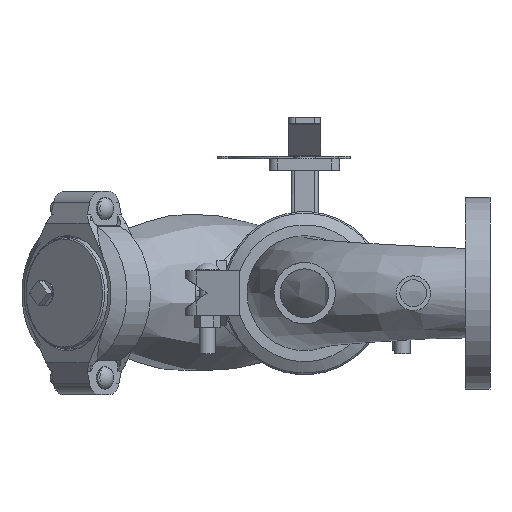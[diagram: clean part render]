
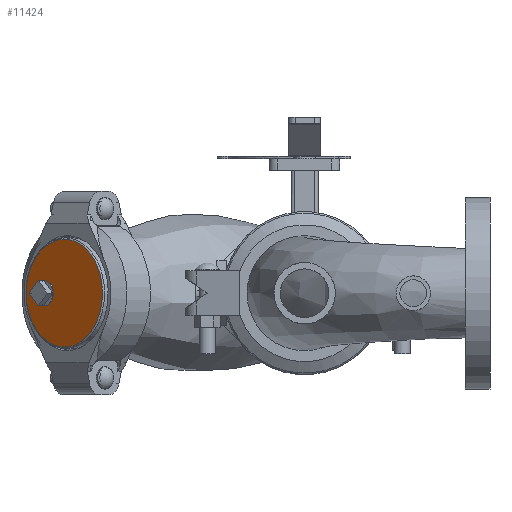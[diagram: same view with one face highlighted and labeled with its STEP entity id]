
A CAD part, front view. The second image highlights one B-rep face of the part: STEP entity #11424.
In plain terms, the highlighted planar face has unit normal (-0.707, -0.707, 0) as drawn and (1, 0, 0) by its records, which use the part's own axes.
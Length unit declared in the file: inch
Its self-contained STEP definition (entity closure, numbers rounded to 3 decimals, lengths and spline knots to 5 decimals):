
#2254=FACE_BOUND('',#3269,.T.);
#2602=FACE_OUTER_BOUND('',#3268,.T.);
#3268=EDGE_LOOP('',(#8380,#8381));
#3269=EDGE_LOOP('',(#8382));
#3936=CIRCLE('',#12588,0.5);
#3944=CIRCLE('',#12599,2.107);
#3945=CIRCLE('',#12600,2.107);
#4775=VERTEX_POINT('',#21610);
#4783=VERTEX_POINT('',#21631);
#4784=VERTEX_POINT('',#21632);
#6076=EDGE_CURVE('',#4775,#4775,#3936,.T.);
#6085=EDGE_CURVE('',#4783,#4784,#3944,.T.);
#6086=EDGE_CURVE('',#4784,#4783,#3945,.T.);
#8380=ORIENTED_EDGE('',*,*,#6085,.T.);
#8381=ORIENTED_EDGE('',*,*,#6086,.T.);
#8382=ORIENTED_EDGE('',*,*,#6076,.T.);
#10327=PLANE('',#12602);
#11424=ADVANCED_FACE('',(#2602,#2254),#10327,.T.);
#12588=AXIS2_PLACEMENT_3D('',#21612,#14768,#14769);
#12599=AXIS2_PLACEMENT_3D('',#21633,#14791,#14792);
#12600=AXIS2_PLACEMENT_3D('',#21634,#14793,#14794);
#12602=AXIS2_PLACEMENT_3D('',#21636,#14797,#14798);
#14768=DIRECTION('center_axis',(-1.,0.,0.));
#14769=DIRECTION('ref_axis',(0.,0.,1.));
#14791=DIRECTION('center_axis',(1.,0.,0.));
#14792=DIRECTION('ref_axis',(0.,0.,-1.));
#14793=DIRECTION('center_axis',(1.,0.,0.));
#14794=DIRECTION('ref_axis',(0.,0.,-1.));
#14797=DIRECTION('center_axis',(1.,0.,0.));
#14798=DIRECTION('ref_axis',(0.,0.,-1.));
#21610=CARTESIAN_POINT('',(1.13,1.1,-0.5));
#21612=CARTESIAN_POINT('Origin',(1.13,1.1,0.));
#21631=CARTESIAN_POINT('',(1.13,2.107,0.));
#21632=CARTESIAN_POINT('',(1.13,0.,2.107));
#21633=CARTESIAN_POINT('Origin',(1.13,0.,0.));
#21634=CARTESIAN_POINT('Origin',(1.13,0.,0.));
#21636=CARTESIAN_POINT('Origin',(1.13,0.,0.));
